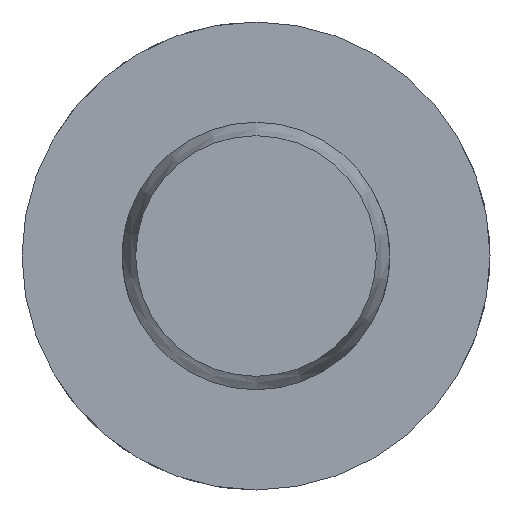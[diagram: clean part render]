
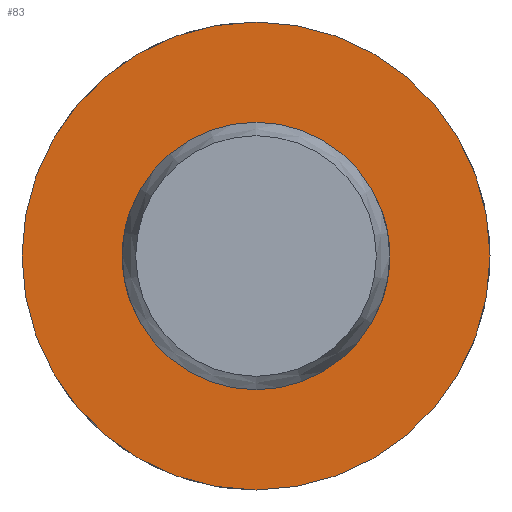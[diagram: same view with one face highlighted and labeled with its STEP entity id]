
A CAD part, left-side view. The second image highlights one B-rep face of the part: STEP entity #83.
In plain terms, the highlighted planar face has unit normal (-1, 0, 0).
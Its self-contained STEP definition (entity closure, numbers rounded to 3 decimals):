
#83 = ADVANCED_FACE( '', ( #128, #129 ), #130, .F. );
#128 = FACE_OUTER_BOUND( '', #204, .T. );
#129 = FACE_BOUND( '', #205, .T. );
#130 = PLANE( '', #206 );
#204 = EDGE_LOOP( '', ( #318 ) );
#205 = EDGE_LOOP( '', ( #319 ) );
#206 = AXIS2_PLACEMENT_3D( '', #320, #321, #322 );
#318 = ORIENTED_EDGE( '', *, *, #481, .F. );
#319 = ORIENTED_EDGE( '', *, *, #471, .T. );
#320 = CARTESIAN_POINT( '', ( 43.2, 4., 0. ) );
#321 = DIRECTION( '', ( 1., 0., 0. ) );
#322 = DIRECTION( '', ( 0., 0., -1. ) );
#471 = EDGE_CURVE( '', #541, #541, #542, .T. );
#481 = EDGE_CURVE( '', #559, #559, #560, .T. );
#541 = VERTEX_POINT( '', #726 );
#542 = CIRCLE( '', #727, 4. );
#559 = VERTEX_POINT( '', #861 );
#560 = CIRCLE( '', #862, 7. );
#726 = CARTESIAN_POINT( '', ( 43.2, 0., -4. ) );
#727 = AXIS2_PLACEMENT_3D( '', #923, #924, #925 );
#861 = CARTESIAN_POINT( '', ( 43.2, 0., -7. ) );
#862 = AXIS2_PLACEMENT_3D( '', #944, #945, #946 );
#923 = CARTESIAN_POINT( '', ( 43.2, 0., 0. ) );
#924 = DIRECTION( '', ( 1., 0., 0. ) );
#925 = DIRECTION( '', ( 0., 0., -1. ) );
#944 = CARTESIAN_POINT( '', ( 43.2, 0., 0. ) );
#945 = DIRECTION( '', ( 1., 0., 0. ) );
#946 = DIRECTION( '', ( 0., 0., -1. ) );
